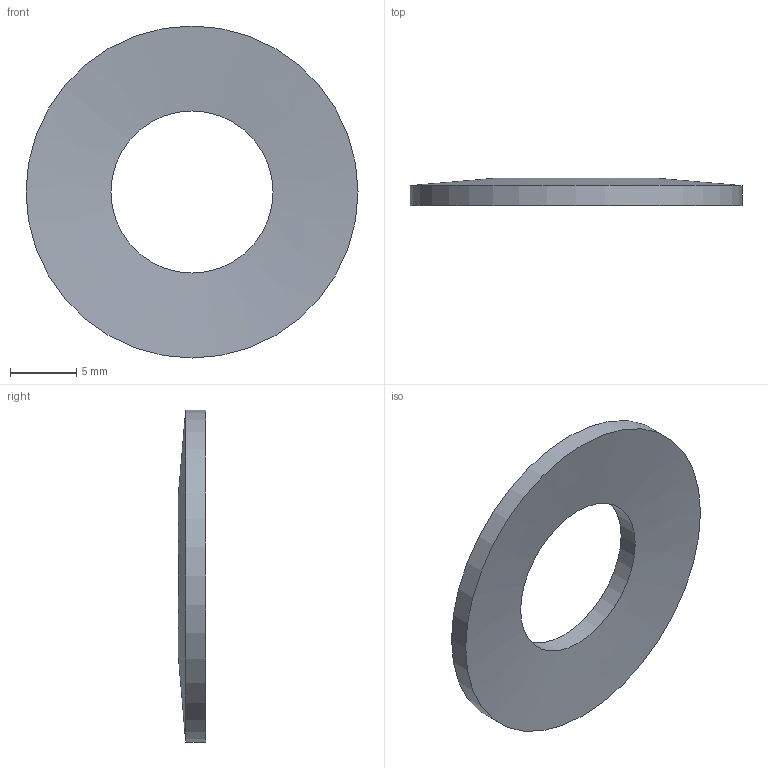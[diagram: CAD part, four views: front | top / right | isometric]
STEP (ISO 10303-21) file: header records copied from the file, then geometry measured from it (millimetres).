
FILE_DESCRIPTION(/* description */ ('2925N'),/* implementation_level */ '2;1');
FILE_NAME(/* name */ 'ST.0250.0122.0150.step',/* time_stamp */ '2026-09-18T10:28:43+02:00',/* author */ ('impex-ready.pl'),/* organization */ ('ST.0250.0122.0150'),/* preprocessor_version */ 'ST-DEVELOPER v20.1',/* originating_system */ 'Autodesk Inventor 2026',/* authorisation */ 'Ugiecie 0,75 h0 = 0.41');
FILE_SCHEMA (('AUTOMOTIVE_DESIGN { 1 0 10303 214 3 1 1 }'));
Length unit declared in the file: millimetre
Products named in the file (1): ST.0250.0122.0150
Bounding box: 25 x 2.05 x 25 mm (x, y, z)
Volume: 563 mm3; surface area: 926.6 mm2
Topology: 1 solids, 1 shells, 4 faces, 8 edges, 4 vertices
Faces by surface type: cone 2, cylinder 2
Full cylindrical faces by diameter (mm): 12.2 x1, 25 x1
Entity records: 151 total; most frequent: DIRECTION 22, CARTESIAN_POINT 17, ORIENTED_EDGE 16, AXIS2_PLACEMENT_3D 9, EDGE_CURVE 8, FACE_OUTER_BOUND 4, EDGE_LOOP 4, LINE 4
